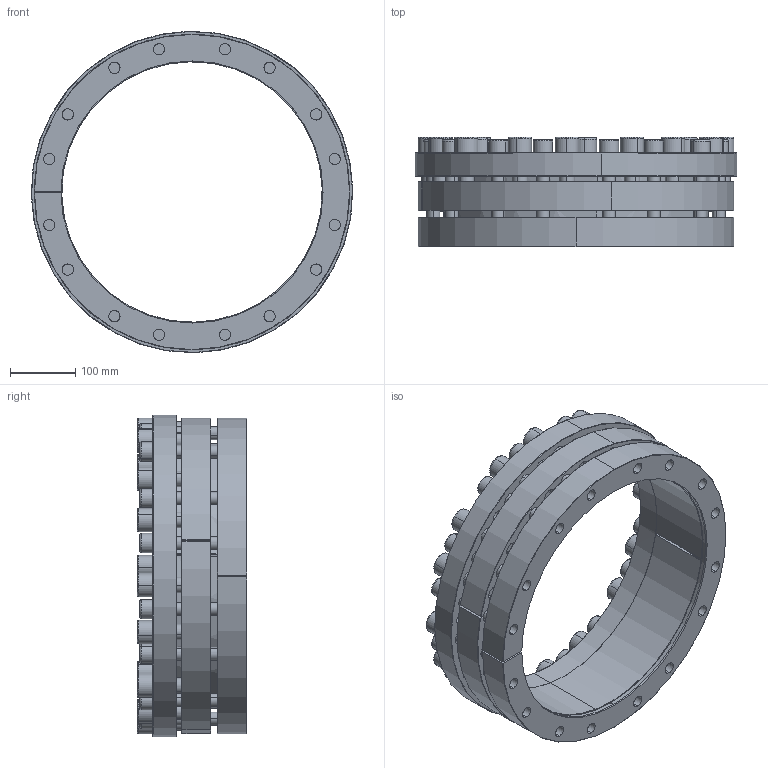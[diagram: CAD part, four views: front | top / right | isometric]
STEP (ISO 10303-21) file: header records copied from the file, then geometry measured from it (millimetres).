
FILE_DESCRIPTION (( 'STEP AP214' ), '1' );
FILE_NAME ('CONEX-P-400x485-P-014.step', '2015-11-30T21:14:48', ( '' ), ( '' ), 'SwSTEP 2.0', 'SolidWorks 2013', '' );
FILE_SCHEMA (( 'AUTOMOTIVE_DESIGN' ));
Length unit declared in the file: millimetre
Products named in the file (1): CONEX-P-400x485-P-014
Bounding box: 493.92 x 168.01 x 493.92 mm (x, y, z)
Volume: 8226492.1 mm3; surface area: 1488550 mm2
Topology: 35 solids, 35 shells, 1119 faces, 2575 edges, 1526 vertices
Faces by surface type: plane 500, cylinder 324, cone 164, torus 131
Entity records: 44129 total; most frequent: DIRECTION 5930, CARTESIAN_POINT 5281, ORIENTED_EDGE 5022, EDGE_CURVE 2511, AXIS2_PLACEMENT_3D 2327, VERTEX_POINT 1526, EDGE_LOOP 1359, LINE 1276
